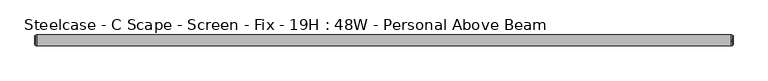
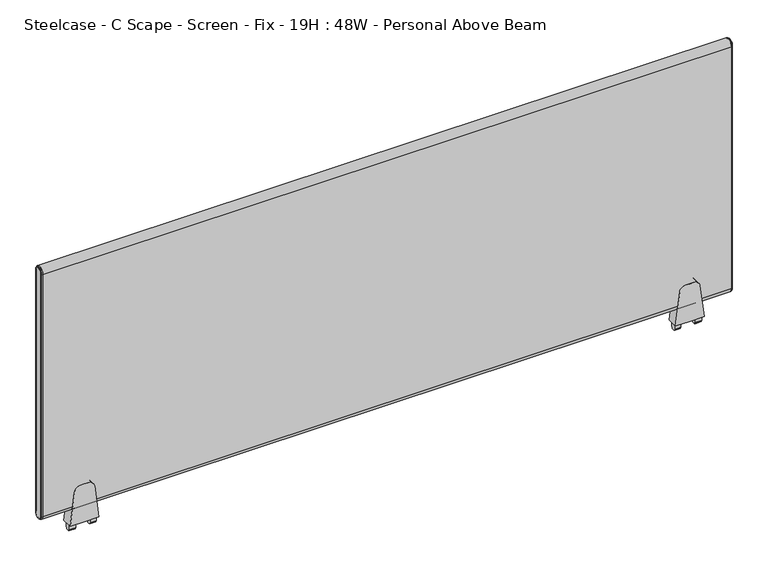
"""IFC4 building model written with IfcOpenShell, lengths in millimetres: furniture geometry, Steelcase - C Scape - Screen - Fix - 19H : 48W - Personal Above Beam."""

from ifc_helpers import new_model, si_unit, point, frame, frame_2d, origin, place, context, project, spatial, polyline, circle_curve, ellipse_curve, trimmed, segment, composite_curve, outline, extrude, source, transform, mapped, element, save
from ifc_brep_helpers import plane_surface, cylinder_surface, revolved_surface, advanced_brep


def steelcase_c_scape_screen_fix_19h_48w_personal_above_beam_73f52622(model_context):
    return source(origin(), model_context, "Body", "SolidModel", [
        extrude(outline(composite_curve([segment(polyline([(723.811112, 101.4730434), (784.1362421, 94.0661495)]), True, "CONTINUOUS"), segment(trimmed(circle_curve(frame_2d((782.8143718, 83.300233)), 10.8467645), [point((784.1362421, 94.0661495))], [point((793.6611362, 83.300233))], False, "CARTESIAN"), True, "CONTINUOUS"), segment(polyline([(793.6611362, 83.300233), (793.6611362, 76.2001674), (793.6611362, 69.1001018)]), True, "CONTINUOUS"), segment(trimmed(circle_curve(frame_2d((782.8143718, 69.1001018)), 10.8467645), [point((793.6611362, 69.1001018))], [point((784.1362421, 58.3341853))], False, "CARTESIAN"), True, "CONTINUOUS"), segment(polyline([(784.1362421, 58.3341853), (723.811112, 50.9272915), (723.811112, 76.2001674), (723.811112, 101.4730434)]), True, "CONTINUOUS")], self_intersect=False)), frame((0.0, -9.525, 0.0), z_axis=(0.0, 1.0, 0.0), x_axis=(0.0, 0.0, 1.0)), (0.0, 0.0, 1.0), 19.05),
        extrude(outline(polyline([(4.5465975, 723.811112), (4.5465975, 713.9051033), (4.0139265, 713.0186748), (2.9972008, 713.0186748), (2.9972008, 710.7834188), (0.0, 710.692), (-2.9972008, 710.7834188), (-2.9972008, 713.0186748), (-4.0139265, 713.0186748), (-4.5465975, 713.9051033), (-4.5465975, 723.811112), (0.0, 723.811112), (4.5465975, 723.811112)])), frame((88.9267162, 0.0, 0.0), z_axis=(1.0, 0.0, 0.0), x_axis=(0.0, 1.0, 0.0)), (0.0, 0.0, 1.0), 10.7813187),
        extrude(outline(polyline([(4.5465975, 723.811112), (4.5465975, 713.9051033), (4.0139265, 713.0186748), (2.9972008, 713.0186748), (2.9972008, 710.7834188), (0.0, 710.692), (-2.9972008, 710.7834188), (-2.9972008, 713.0186748), (-4.0139265, 713.0186748), (-4.5465975, 713.9051033), (-4.5465975, 723.811112), (0.0, 723.811112), (4.5465975, 723.811112)])), frame((52.6923, 0.0, 0.0), z_axis=(1.0, 0.0, 0.0), x_axis=(0.0, 1.0, 0.0)), (0.0, 0.0, 1.0), 10.7813187),
        extrude(outline(composite_curve([segment(polyline([(723.811112, 1167.5107132), (784.1362421, 1160.1038193)]), True, "CONTINUOUS"), segment(trimmed(circle_curve(frame_2d((782.8143718, 1149.3379028)), 10.8467645), [point((784.1362421, 1160.1038193))], [point((793.6611362, 1149.3379028))], False, "CARTESIAN"), True, "CONTINUOUS"), segment(polyline([(793.6611362, 1149.3379028), (793.6611362, 1142.2378372), (793.6611362, 1135.1377716)]), True, "CONTINUOUS"), segment(trimmed(circle_curve(frame_2d((782.8143718, 1135.1377716)), 10.8467645), [point((793.6611362, 1135.1377716))], [point((784.1362421, 1124.3718551))], False, "CARTESIAN"), True, "CONTINUOUS"), segment(polyline([(784.1362421, 1124.3718551), (723.811112, 1116.9649612), (723.811112, 1142.2378372), (723.811112, 1167.5107132)]), True, "CONTINUOUS")], self_intersect=False)), frame((0.0, -9.525, 0.0), z_axis=(0.0, 1.0, 0.0), x_axis=(0.0, 0.0, 1.0)), (0.0, 0.0, 1.0), 19.05),
        extrude(outline(polyline([(4.5465975, 723.811112), (4.5465975, 713.9051033), (4.0139265, 713.0186748), (2.9972008, 713.0186748), (2.9972008, 710.7834188), (0.0, 710.692), (-2.9972008, 710.7834188), (-2.9972008, 713.0186748), (-4.0139265, 713.0186748), (-4.5465975, 713.9051033), (-4.5465975, 723.811112), (0.0, 723.811112), (4.5465975, 723.811112)])), frame((1154.964386, 0.0, 0.0), z_axis=(1.0, 0.0, 0.0), x_axis=(0.0, 1.0, 0.0)), (0.0, 0.0, 1.0), 10.7813187),
        extrude(outline(polyline([(4.5465975, 723.811112), (4.5465975, 713.9051033), (4.0139265, 713.0186748), (2.9972008, 713.0186748), (2.9972008, 710.7834188), (0.0, 710.692), (-2.9972008, 710.7834188), (-2.9972008, 713.0186748), (-4.0139265, 713.0186748), (-4.5465975, 713.9051033), (-4.5465975, 723.811112), (0.0, 723.811112), (4.5465975, 723.811112)])), frame((1118.7299698, 0.0, 0.0), z_axis=(1.0, 0.0, 0.0), x_axis=(0.0, 1.0, 0.0)), (0.0, 0.0, 1.0), 10.7813187),
        advanced_brep(
        [(1215.6486613, -9.525, 1209.675), (1215.6486613, 9.525, 1209.675), (1215.6486613, 9.525, 758.825), (1215.6486613, -9.525, 758.825), (1218.4426613, 7.4929583, 1209.675), (1218.4426613, -7.4929583, 1209.675), (1218.4426613, -7.4929583, 758.825), (1218.4426613, 7.4929583, 758.825), (1217.9346545, -8.0009651, 1209.675), (1217.9346545, 8.0009651, 1209.675), (1216.6646613, 8.0009651, 1209.675), (1216.6646613, -8.0009651, 1209.675), (1216.6646613, -8.8204932, 1209.675), (1216.6646613, 8.8204932, 1209.675), (1216.6646613, -8.0009651, 758.825), (1217.9346545, -8.0009651, 758.825), (1216.6646613, -8.8204932, 758.825), (1216.6646613, 8.0009651, 758.825), (1217.9346545, 8.0009651, 758.825), (1216.6646613, 8.8204932, 758.825)],
        [
            (0, 1, circle_curve(frame((1215.6486613, 0.0, 1209.675), z_axis=(-1.0, 0.0, 0.0), x_axis=(0.0, 1.0, 0.0)), 9.525)),
            (1, 2),
            (2, 3, circle_curve(frame((1215.6486613, 0.0, 758.825), z_axis=(-1.0, 0.0, 0.0), x_axis=(0.0, -1.0, 0.0)), 9.525)),
            (3, 0),
            (4, 5, circle_curve(frame((1218.4426613, 0.0, 1209.675), z_axis=(1.0, 0.0, 0.0), x_axis=(0.0, 1.0, 0.0)), 7.4929583)),
            (5, 6),
            (6, 7, circle_curve(frame((1218.4426613, 0.0, 758.825), z_axis=(1.0, 0.0, 0.0), x_axis=(0.0, -1.0, 0.0)), 7.4929583)),
            (7, 4),
            (8, 9, circle_curve(frame((1217.9346545, 0.0, 1209.675), z_axis=(-1.0, 0.0, 0.0), x_axis=(0.0, 1.0, 0.0)), 8.0009651)),
            (9, 10),
            (10, 11, circle_curve(frame((1216.6646613, 0.0, 1209.675), z_axis=(1.0, 0.0, 0.0), x_axis=(0.0, 1.0, 0.0)), 8.0009651)),
            (11, 8),
            (8, 5, circle_curve(frame((1217.9346545, -7.4929583, 1209.675), z_axis=(0.0, 0.0, 1.0), x_axis=(0.0, -1.0, 0.0)), 0.5080068)),
            (4, 9, circle_curve(frame((1217.9346545, 7.4929583, 1209.675), z_axis=(0.0, 0.0, 1.0), x_axis=(0.0, 1.0, 0.0)), 0.5080068)),
            (12, 13, circle_curve(frame((1216.6646613, 0.0, 1209.675), z_axis=(-1.0, 0.0, 0.0), x_axis=(0.0, 1.0, 0.0)), 8.8204932)),
            (13, 1, circle_curve(frame((1215.5806211, 8.3420139, 1209.675), z_axis=(0.0, 0.0, 1.0), x_axis=(0.0, 1.0, 0.0)), 1.1849411)),
            (0, 12, circle_curve(frame((1215.5806211, -8.3420139, 1209.675), z_axis=(0.0, 0.0, 1.0), x_axis=(0.0, -1.0, 0.0)), 1.1849411)),
            (11, 14),
            (14, 15),
            (15, 8),
            (15, 6, circle_curve(frame((1217.9346545, -7.4929583, 758.825), z_axis=(0.0, 0.0, 1.0), x_axis=(0.0, -1.0, 0.0)), 0.5080068)),
            (3, 16, circle_curve(frame((1215.5806211, -8.3420139, 758.825), z_axis=(0.0, 0.0, 1.0), x_axis=(0.0, -1.0, 0.0)), 1.1849411)),
            (16, 12),
            (14, 17, circle_curve(frame((1216.6646613, 0.0, 758.825), z_axis=(1.0, 0.0, 0.0), x_axis=(0.0, -1.0, 0.0)), 8.0009651)),
            (17, 18),
            (18, 15, circle_curve(frame((1217.9346545, 0.0, 758.825), z_axis=(-1.0, 0.0, 0.0), x_axis=(0.0, -1.0, 0.0)), 8.0009651)),
            (18, 7, circle_curve(frame((1217.9346545, 7.4929583, 758.825), z_axis=(0.0, 0.0, -1.0), x_axis=(0.0, 1.0, 0.0)), 0.5080068)),
            (2, 19, circle_curve(frame((1215.5806211, 8.3420139, 758.825), z_axis=(0.0, 0.0, -1.0), x_axis=(0.0, 1.0, 0.0)), 1.1849411)),
            (19, 16, circle_curve(frame((1216.6646613, 0.0, 758.825), z_axis=(-1.0, 0.0, 0.0), x_axis=(0.0, -1.0, 0.0)), 8.8204932)),
            (9, 18),
            (17, 10),
            (13, 19),
        ],
        [
            plane_surface(frame((1215.6486613, -6.3509705, 1209.675), z_axis=(-1.0, 0.0, 0.0), x_axis=(0.0, 0.0, 1.0))),
            plane_surface(frame((1218.4426613, -6.3509705, 1209.675), z_axis=(1.0, 0.0, 0.0), x_axis=(0.0, 0.0, -1.0))),
            cylinder_surface(frame((1215.6486613, 0.0, 1209.675), z_axis=(1.0, 0.0, 0.0), x_axis=(0.0, 1.0, 0.0)), 8.0009651),
            revolved_surface(trimmed(ellipse_curve(frame((1217.9346545, 7.4929583, 1209.675), z_axis=(0.0, 0.0, -1.0), x_axis=(0.0, 1.0, 0.0)), 0.5080068, 0.5080068), [point((1217.9346545, 8.0009651, 1209.675))], [point((1218.4426613, 7.4929583, 1209.675))], True, "CARTESIAN"), (1215.6486613, 0.0, 1209.675), (1.0, 0.0, 0.0)),
            revolved_surface(trimmed(ellipse_curve(frame((1215.5806211, 8.3420139, 1209.675), z_axis=(0.0, 0.0, -1.0), x_axis=(0.0, 1.0, 0.0)), 1.1849411, 1.1849411), [point((1215.6486613, 9.525, 1209.675))], [point((1216.6646613, 8.8204932, 1209.675))], True, "CARTESIAN"), (1215.6486613, 0.0, 1209.675), (1.0, 0.0, 0.0)),
            plane_surface(frame((1216.6646613, -8.0009651, 1209.675), z_axis=(0.0, -1.0, 0.0), x_axis=(0.0, 0.0, -1.0))),
            cylinder_surface(frame((1217.9346545, -7.4929583, 1209.675), z_axis=(0.0, 0.0, 1.0), x_axis=(0.0, -1.0, 0.0)), 0.5080068),
            cylinder_surface(frame((1215.5806211, -8.3420139, 1209.675), z_axis=(0.0, 0.0, 1.0), x_axis=(0.0, -1.0, 0.0)), 1.1849411),
            cylinder_surface(frame((1215.6486613, 0.0, 758.825), z_axis=(1.0, 0.0, 0.0), x_axis=(0.0, -1.0, 0.0)), 8.0009651),
            revolved_surface(trimmed(ellipse_curve(frame((1217.9346545, -7.4929583, 758.825), z_axis=(0.0, 0.0, 1.0), x_axis=(0.0, -1.0, 0.0)), 0.5080068, 0.5080068), [point((1217.9346545, -8.0009651, 758.825))], [point((1218.4426613, -7.4929583, 758.825))], True, "CARTESIAN"), (1215.6486613, 0.0, 758.825), (1.0, 0.0, 0.0)),
            revolved_surface(trimmed(ellipse_curve(frame((1215.5806211, -8.3420139, 758.825), z_axis=(0.0, 0.0, 1.0), x_axis=(0.0, -1.0, 0.0)), 1.1849411, 1.1849411), [point((1215.6486613, -9.525, 758.825))], [point((1216.6646613, -8.8204932, 758.825))], True, "CARTESIAN"), (1215.6486613, 0.0, 758.825), (1.0, 0.0, 0.0)),
            plane_surface(frame((1216.6646613, 8.0009651, 758.825), z_axis=(0.0, 1.0, 0.0), x_axis=(0.0, 0.0, 1.0))),
            cylinder_surface(frame((1217.9346545, 7.4929583, 758.825), z_axis=(0.0, 0.0, -1.0), x_axis=(0.0, 1.0, 0.0)), 0.5080068),
            cylinder_surface(frame((1215.5806211, 8.3420139, 758.825), z_axis=(0.0, 0.0, -1.0), x_axis=(0.0, 1.0, 0.0)), 1.1849411),
            plane_surface(frame((1216.6646613, 8.8204932, 758.825), z_axis=(1.0, 0.0, 0.0), x_axis=(0.0, 0.0, 1.0))),
        ],
        [
            (0, [[1, 2, 3, 4]]),
            (1, [[5, 6, 7, 8]]),
            (2, [[9, 10, 11, 12]]),
            (3, [[-9, 13, -5, 14]]),
            (4, [[15, 16, -1, 17]]),
            (5, [[-12, 18, 19, 20]]),
            (6, [[-13, -20, 21, -6]]),
            (7, [[-17, -4, 22, 23]]),
            (8, [[-19, 24, 25, 26]]),
            (9, [[-21, -26, 27, -7]]),
            (10, [[-22, -3, 28, 29]]),
            (11, [[-10, 30, -25, 31]]),
            (12, [[-14, -8, -27, -30]]),
            (13, [[-16, 32, -28, -2]]),
            (14, [[-15, -23, -29, -32], [-11, -31, -24, -18]]),
        ],
    ),
        advanced_brep(
        [(2.7940155, 9.525, 1209.675), (2.7940155, -9.525, 1209.675), (2.7940155, -9.525, 758.825), (2.7940155, 9.525, 758.825), (0.0, -7.4929583, 1209.675), (0.0, 7.4929583, 1209.675), (0.0, 7.4929583, 758.825), (0.0, -7.4929583, 758.825), (1.778, 8.8204932, 1209.675), (1.778, -8.8204932, 1209.675), (0.5080068, -8.0009651, 1209.675), (0.5080068, 8.0009651, 1209.675), (1.778, -8.0009651, 1209.675), (1.778, 8.0009651, 1209.675), (1.778, -8.8204932, 758.825), (0.5080068, -8.0009651, 758.825), (1.778, -8.0009651, 758.825), (1.778, 8.8204932, 758.825), (0.5080068, 8.0009651, 758.825), (1.778, 8.0009651, 758.825)],
        [
            (0, 1, circle_curve(frame((2.7940155, 0.0, 1209.675), z_axis=(1.0, 0.0, 0.0), x_axis=(0.0, 1.0, 0.0)), 9.525)),
            (1, 2),
            (2, 3, circle_curve(frame((2.7940155, 0.0, 758.825), z_axis=(1.0, 0.0, 0.0), x_axis=(0.0, -1.0, 0.0)), 9.525)),
            (3, 0),
            (4, 5, circle_curve(frame((0.0, 0.0, 1209.675), z_axis=(-1.0, 0.0, 0.0), x_axis=(0.0, 1.0, 0.0)), 7.4929583)),
            (5, 6),
            (6, 7, circle_curve(frame((0.0, 0.0, 758.825), z_axis=(-1.0, 0.0, 0.0), x_axis=(0.0, -1.0, 0.0)), 7.4929583)),
            (7, 4),
            (0, 8, circle_curve(frame((2.8620402, 8.3420139, 1209.675), z_axis=(0.0, 0.0, 1.0), x_axis=(0.0, -1.0, 0.0)), 1.1849411)),
            (8, 9, circle_curve(frame((1.778, 0.0, 1209.675), z_axis=(1.0, 0.0, 0.0), x_axis=(0.0, 1.0, 0.0)), 8.8204932)),
            (9, 1, circle_curve(frame((2.8620402, -8.3420139, 1209.675), z_axis=(0.0, 0.0, 1.0), x_axis=(0.0, 1.0, 0.0)), 1.1849411)),
            (10, 11, circle_curve(frame((0.5080068, 0.0, 1209.675), z_axis=(-1.0, 0.0, 0.0), x_axis=(0.0, 1.0, 0.0)), 8.0009651)),
            (11, 5, circle_curve(frame((0.5080068, 7.4929583, 1209.675), z_axis=(0.0, 0.0, 1.0), x_axis=(0.0, -1.0, 0.0)), 0.5080068)),
            (4, 10, circle_curve(frame((0.5080068, -7.4929583, 1209.675), z_axis=(0.0, 0.0, 1.0), x_axis=(0.0, 1.0, 0.0)), 0.5080068)),
            (10, 12),
            (12, 13, circle_curve(frame((1.778, 0.0, 1209.675), z_axis=(-1.0, 0.0, 0.0), x_axis=(0.0, 1.0, 0.0)), 8.0009651)),
            (13, 11),
            (9, 14),
            (14, 2, circle_curve(frame((2.8620402, -8.3420139, 758.825), z_axis=(0.0, 0.0, 1.0), x_axis=(0.0, 1.0, 0.0)), 1.1849411)),
            (7, 15, circle_curve(frame((0.5080068, -7.4929583, 758.825), z_axis=(0.0, 0.0, 1.0), x_axis=(0.0, 1.0, 0.0)), 0.5080068)),
            (15, 10),
            (15, 16),
            (16, 12),
            (14, 17, circle_curve(frame((1.778, 0.0, 758.825), z_axis=(1.0, 0.0, 0.0), x_axis=(0.0, -1.0, 0.0)), 8.8204932)),
            (17, 3, circle_curve(frame((2.8620402, 8.3420139, 758.825), z_axis=(0.0, 0.0, -1.0), x_axis=(0.0, -1.0, 0.0)), 1.1849411)),
            (6, 18, circle_curve(frame((0.5080068, 7.4929583, 758.825), z_axis=(0.0, 0.0, -1.0), x_axis=(0.0, -1.0, 0.0)), 0.5080068)),
            (18, 15, circle_curve(frame((0.5080068, 0.0, 758.825), z_axis=(-1.0, 0.0, 0.0), x_axis=(0.0, -1.0, 0.0)), 8.0009651)),
            (18, 19),
            (19, 16, circle_curve(frame((1.778, 0.0, 758.825), z_axis=(-1.0, 0.0, 0.0), x_axis=(0.0, -1.0, 0.0)), 8.0009651)),
            (8, 17),
            (19, 13),
            (11, 18),
        ],
        [
            plane_surface(frame((2.7940155, -6.3509705, 1209.675), z_axis=(1.0, 0.0, 0.0), x_axis=(0.0, 0.0, -1.0))),
            plane_surface(frame((0.0, -6.3509705, 1209.675), z_axis=(-1.0, 0.0, 0.0), x_axis=(0.0, 0.0, 1.0))),
            revolved_surface(trimmed(ellipse_curve(frame((2.8620402, 8.3420139, 1209.675), z_axis=(0.0, 0.0, -1.0), x_axis=(0.0, -1.0, 0.0)), 1.1849411, 1.1849411), [point((1.778, 8.8204932, 1209.675))], [point((2.794, 9.525, 1209.675))], True, "CARTESIAN"), (2.794, 0.0, 1209.675), (1.0, 0.0, 0.0)),
            revolved_surface(trimmed(ellipse_curve(frame((0.5080068, 7.4929583, 1209.675), z_axis=(0.0, 0.0, -1.0), x_axis=(0.0, -1.0, 0.0)), 0.5080068, 0.5080068), [point((0.0, 7.4929583, 1209.675))], [point((0.5080068, 8.0009651, 1209.675))], True, "CARTESIAN"), (2.794, 0.0, 1209.675), (1.0, 0.0, 0.0)),
            cylinder_surface(frame((2.794, 0.0, 1209.675), z_axis=(1.0, 0.0, 0.0), x_axis=(0.0, 1.0, 0.0)), 8.0009651),
            cylinder_surface(frame((2.8620402, -8.3420139, 1209.675), z_axis=(0.0, 0.0, 1.0), x_axis=(0.0, 1.0, 0.0)), 1.1849411),
            cylinder_surface(frame((0.5080068, -7.4929583, 1209.675), z_axis=(0.0, 0.0, 1.0), x_axis=(0.0, 1.0, 0.0)), 0.5080068),
            plane_surface(frame((0.5080068, -8.0009651, 1209.675), z_axis=(0.0, -1.0, 0.0), x_axis=(0.0, 0.0, -1.0))),
            revolved_surface(trimmed(ellipse_curve(frame((2.8620402, -8.3420139, 758.825), z_axis=(0.0, 0.0, 1.0), x_axis=(0.0, 1.0, 0.0)), 1.1849411, 1.1849411), [point((1.778, -8.8204932, 758.825))], [point((2.794, -9.525, 758.825))], True, "CARTESIAN"), (2.794, 0.0, 758.825), (1.0, 0.0, 0.0)),
            revolved_surface(trimmed(ellipse_curve(frame((0.5080068, -7.4929583, 758.825), z_axis=(0.0, 0.0, 1.0), x_axis=(0.0, 1.0, 0.0)), 0.5080068, 0.5080068), [point((0.0, -7.4929583, 758.825))], [point((0.5080068, -8.0009651, 758.825))], True, "CARTESIAN"), (2.794, 0.0, 758.825), (1.0, 0.0, 0.0)),
            cylinder_surface(frame((2.794, 0.0, 758.825), z_axis=(1.0, 0.0, 0.0), x_axis=(0.0, -1.0, 0.0)), 8.0009651),
            plane_surface(frame((1.778, 8.0009651, 758.825), z_axis=(-1.0, 0.0, 0.0), x_axis=(0.0, 0.0, 1.0))),
            cylinder_surface(frame((2.8620402, 8.3420139, 758.825), z_axis=(0.0, 0.0, -1.0), x_axis=(0.0, -1.0, 0.0)), 1.1849411),
            cylinder_surface(frame((0.5080068, 7.4929583, 758.825), z_axis=(0.0, 0.0, -1.0), x_axis=(0.0, -1.0, 0.0)), 0.5080068),
            plane_surface(frame((0.5080068, 8.0009651, 758.825), z_axis=(0.0, 1.0, 0.0), x_axis=(0.0, 0.0, 1.0))),
        ],
        [
            (0, [[1, 2, 3, 4]]),
            (1, [[5, 6, 7, 8]]),
            (2, [[-1, 9, 10, 11]]),
            (3, [[12, 13, -5, 14]]),
            (4, [[-12, 15, 16, 17]]),
            (5, [[-11, 18, 19, -2]]),
            (6, [[-14, -8, 20, 21]]),
            (7, [[-15, -21, 22, 23]]),
            (8, [[-19, 24, 25, -3]]),
            (9, [[-20, -7, 26, 27]]),
            (10, [[-22, -27, 28, 29]]),
            (11, [[-10, 30, -24, -18], [-16, -23, -29, 31]]),
            (12, [[-9, -4, -25, -30]]),
            (13, [[-13, 32, -26, -6]]),
            (14, [[-17, -31, -28, -32]]),
        ],
    ),
        extrude(outline(composite_curve([segment(trimmed(circle_curve(frame_2d((0.0, 1209.675)), 9.525), [point((-9.525, 1209.675))], [point((9.525, 1209.675))], False, "CARTESIAN"), True, "CONTINUOUS"), segment(polyline([(9.525, 1209.675), (9.525, 758.825)]), True, "CONTINUOUS"), segment(trimmed(circle_curve(frame_2d((0.0, 758.825)), 9.525), [point((9.525, 758.825))], [point((-9.525, 758.825))], False, "CARTESIAN"), True, "CONTINUOUS"), segment(polyline([(-9.525, 758.825), (-9.525, 1209.675)]), True, "CONTINUOUS")], self_intersect=False)), frame((2.794, 0.0, 0.0), z_axis=(1.0, 0.0, 0.0), x_axis=(0.0, 1.0, 0.0)), (0.0, 0.0, 1.0), 1212.8546613),
    ])


if __name__ == "__main__":
    model = new_model("IFC4")
    model_context = context("Model", 3, world=origin())
    ifc_project = project(units=[si_unit("LENGTHUNIT", "METRE", prefix="MILLI")], contexts=[model_context])
    site = spatial("IfcSite", under=ifc_project)
    building = spatial("IfcBuilding", under=site)
    placement = place(None, origin())
    steelcase_c_scape_screen_fix_19h_48w_personal_above_beam_shape = steelcase_c_scape_screen_fix_19h_48w_personal_above_beam_73f52622(model_context)
    element("IfcFurniture", 1, ObjectType="Steelcase - C Scape - Screen - Fix - 19H : 48W - Personal Above Beam", at=placement, inside=building, context=model_context, shape_type="MappedRepresentation", body=[
        mapped(steelcase_c_scape_screen_fix_19h_48w_personal_above_beam_shape, transform((0.0, 0.0, 0.0), x_axis=(1.0, 0.0, 0.0), y_axis=(0.0, 1.0, 0.0), z_axis=(0.0, 0.0, 1.0))),
    ])
    save(model, "model.ifc")
